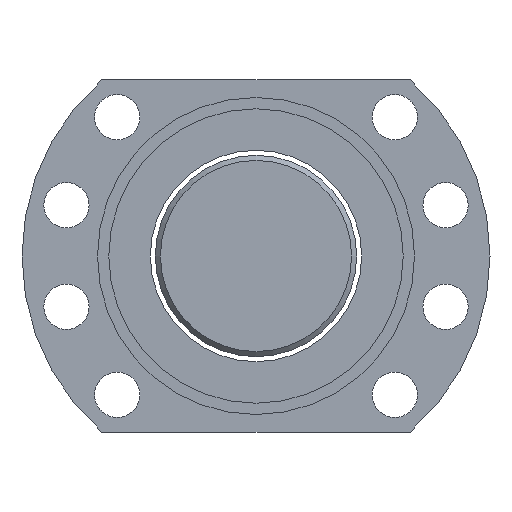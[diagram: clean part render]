
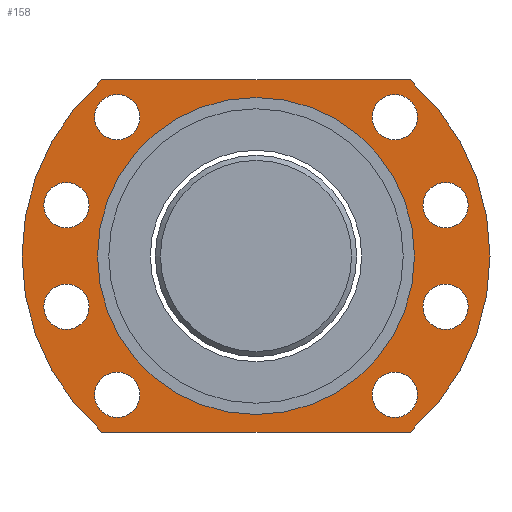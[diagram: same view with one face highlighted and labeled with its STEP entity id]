
A CAD part, left-side view. The second image highlights one B-rep face of the part: STEP entity #158.
In plain terms, the highlighted planar face has unit normal (-1, 0, 0).
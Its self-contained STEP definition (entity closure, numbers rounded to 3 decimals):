
#105=LINE('',#1175,#113);
#106=LINE('',#1179,#114);
#113=VECTOR('',#952,1.);
#114=VECTOR('',#955,1.);
#132=PLANE('',#809);
#158=ADVANCED_FACE('',(#255,#256,#257,#258,#259,#260,#261,#262,#263,#264),
#132,.T.);
#255=FACE_BOUND('',#363,.T.);
#256=FACE_BOUND('',#364,.T.);
#257=FACE_BOUND('',#365,.T.);
#258=FACE_BOUND('',#366,.T.);
#259=FACE_BOUND('',#367,.T.);
#260=FACE_BOUND('',#368,.T.);
#261=FACE_BOUND('',#369,.T.);
#262=FACE_BOUND('',#370,.T.);
#263=FACE_BOUND('',#371,.T.);
#264=FACE_BOUND('',#372,.T.);
#363=EDGE_LOOP('',(#480));
#364=EDGE_LOOP('',(#481));
#365=EDGE_LOOP('',(#482));
#366=EDGE_LOOP('',(#483));
#367=EDGE_LOOP('',(#484));
#368=EDGE_LOOP('',(#485,#486,#487,#488));
#369=EDGE_LOOP('',(#489));
#370=EDGE_LOOP('',(#490));
#371=EDGE_LOOP('',(#491));
#372=EDGE_LOOP('',(#492));
#480=ORIENTED_EDGE('',*,*,#666,.T.);
#481=ORIENTED_EDGE('',*,*,#667,.T.);
#482=ORIENTED_EDGE('',*,*,#668,.F.);
#483=ORIENTED_EDGE('',*,*,#669,.F.);
#484=ORIENTED_EDGE('',*,*,#670,.F.);
#485=ORIENTED_EDGE('',*,*,#671,.T.);
#486=ORIENTED_EDGE('',*,*,#672,.T.);
#487=ORIENTED_EDGE('',*,*,#673,.T.);
#488=ORIENTED_EDGE('',*,*,#674,.T.);
#489=ORIENTED_EDGE('',*,*,#675,.F.);
#490=ORIENTED_EDGE('',*,*,#676,.T.);
#491=ORIENTED_EDGE('',*,*,#677,.F.);
#492=ORIENTED_EDGE('',*,*,#678,.T.);
#604=VERTEX_POINT('',#1163);
#605=VERTEX_POINT('',#1165);
#606=VERTEX_POINT('',#1167);
#607=VERTEX_POINT('',#1169);
#608=VERTEX_POINT('',#1171);
#609=VERTEX_POINT('',#1173);
#610=VERTEX_POINT('',#1174);
#611=VERTEX_POINT('',#1176);
#612=VERTEX_POINT('',#1178);
#613=VERTEX_POINT('',#1181);
#614=VERTEX_POINT('',#1183);
#615=VERTEX_POINT('',#1185);
#616=VERTEX_POINT('',#1187);
#666=EDGE_CURVE('',#604,#604,#730,.T.);
#667=EDGE_CURVE('',#605,#605,#731,.T.);
#668=EDGE_CURVE('',#606,#606,#732,.T.);
#669=EDGE_CURVE('',#607,#607,#733,.T.);
#670=EDGE_CURVE('',#608,#608,#734,.T.);
#671=EDGE_CURVE('',#609,#610,#735,.T.);
#672=EDGE_CURVE('',#610,#611,#105,.T.);
#673=EDGE_CURVE('',#611,#612,#736,.T.);
#674=EDGE_CURVE('',#612,#609,#106,.T.);
#675=EDGE_CURVE('',#613,#613,#737,.T.);
#676=EDGE_CURVE('',#614,#614,#738,.T.);
#677=EDGE_CURVE('',#615,#615,#739,.T.);
#678=EDGE_CURVE('',#616,#616,#740,.T.);
#730=CIRCLE('',#798,4.5);
#731=CIRCLE('',#799,4.5);
#732=CIRCLE('',#800,4.5);
#733=CIRCLE('',#801,4.5);
#734=CIRCLE('',#802,4.5);
#735=CIRCLE('',#803,46.5);
#736=CIRCLE('',#804,46.5);
#737=CIRCLE('',#805,31.5);
#738=CIRCLE('',#806,4.5);
#739=CIRCLE('',#807,4.5);
#740=CIRCLE('',#808,4.5);
#798=AXIS2_PLACEMENT_3D('',#1162,#940,#941);
#799=AXIS2_PLACEMENT_3D('',#1164,#942,#943);
#800=AXIS2_PLACEMENT_3D('',#1166,#944,#945);
#801=AXIS2_PLACEMENT_3D('',#1168,#946,#947);
#802=AXIS2_PLACEMENT_3D('',#1170,#948,#949);
#803=AXIS2_PLACEMENT_3D('',#1172,#950,#951);
#804=AXIS2_PLACEMENT_3D('',#1177,#953,#954);
#805=AXIS2_PLACEMENT_3D('',#1180,#956,#957);
#806=AXIS2_PLACEMENT_3D('',#1182,#958,#959);
#807=AXIS2_PLACEMENT_3D('',#1184,#960,#961);
#808=AXIS2_PLACEMENT_3D('',#1186,#962,#963);
#809=AXIS2_PLACEMENT_3D('',#1188,#964,#965);
#940=DIRECTION('',(1.,0.,0.));
#941=DIRECTION('',(0.,0.,1.));
#942=DIRECTION('',(1.,0.,0.));
#943=DIRECTION('',(0.,0.,1.));
#944=DIRECTION('',(-1.,0.,0.));
#945=DIRECTION('',(0.,0.,1.));
#946=DIRECTION('',(-1.,0.,0.));
#947=DIRECTION('',(0.,0.,1.));
#948=DIRECTION('',(-1.,0.,0.));
#949=DIRECTION('',(0.,0.,1.));
#950=DIRECTION('',(-1.,0.,0.));
#951=DIRECTION('',(0.,0.,-1.));
#952=DIRECTION('',(0.,-1.,0.));
#953=DIRECTION('',(-1.,0.,0.));
#954=DIRECTION('',(0.,0.,-1.));
#955=DIRECTION('',(0.,1.,0.));
#956=DIRECTION('',(-1.,0.,0.));
#957=DIRECTION('',(0.,0.,-1.));
#958=DIRECTION('',(1.,0.,0.));
#959=DIRECTION('',(0.,0.,1.));
#960=DIRECTION('',(-1.,0.,0.));
#961=DIRECTION('',(0.,0.,1.));
#962=DIRECTION('',(1.,0.,0.));
#963=DIRECTION('',(0.,0.,1.));
#964=DIRECTION('',(-1.,0.,0.));
#965=DIRECTION('',(0.,0.,1.));
#1162=CARTESIAN_POINT('',(-64.187,-30.67,-3.153));
#1163=CARTESIAN_POINT('',(-64.187,-30.67,1.347));
#1164=CARTESIAN_POINT('',(-64.187,-20.577,-40.824));
#1165=CARTESIAN_POINT('',(-64.187,-20.577,-36.324));
#1166=CARTESIAN_POINT('',(-64.187,34.578,-40.824));
#1167=CARTESIAN_POINT('',(-64.187,34.578,-36.324));
#1168=CARTESIAN_POINT('',(-64.187,44.672,-3.153));
#1169=CARTESIAN_POINT('',(-64.187,44.672,1.347));
#1170=CARTESIAN_POINT('',(-64.187,44.672,-23.34));
#1171=CARTESIAN_POINT('',(-64.187,44.672,-18.84));
#1172=CARTESIAN_POINT('',(-64.187,7.001,-13.247));
#1173=CARTESIAN_POINT('',(-64.187,37.615,21.753));
#1174=CARTESIAN_POINT('',(-64.187,37.615,-48.247));
#1175=CARTESIAN_POINT('',(-64.187,37.615,-48.247));
#1176=CARTESIAN_POINT('',(-64.187,-23.614,-48.247));
#1177=CARTESIAN_POINT('',(-64.187,7.001,-13.247));
#1178=CARTESIAN_POINT('',(-64.187,-23.614,21.753));
#1179=CARTESIAN_POINT('',(-64.187,-23.614,21.753));
#1180=CARTESIAN_POINT('',(-64.187,7.001,-13.247));
#1181=CARTESIAN_POINT('',(-64.187,7.001,-44.747));
#1182=CARTESIAN_POINT('',(-64.187,-30.67,-23.34));
#1183=CARTESIAN_POINT('',(-64.187,-30.67,-18.84));
#1184=CARTESIAN_POINT('',(-64.187,34.578,14.331));
#1185=CARTESIAN_POINT('',(-64.187,34.578,18.831));
#1186=CARTESIAN_POINT('',(-64.187,-20.577,14.331));
#1187=CARTESIAN_POINT('',(-64.187,-20.577,18.831));
#1188=CARTESIAN_POINT('',(-64.187,7.001,-13.247));
